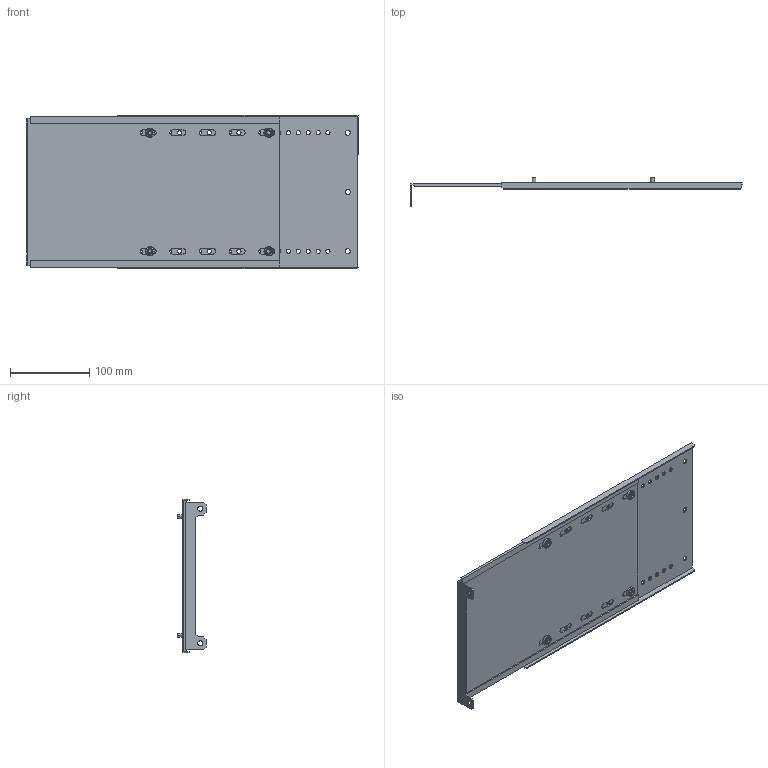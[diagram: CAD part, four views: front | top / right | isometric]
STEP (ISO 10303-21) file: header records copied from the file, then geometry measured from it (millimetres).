
FILE_DESCRIPTION (( 'STEP AP214' ), '1' );
FILE_NAME ('FO-00-SWVB-020-040 Ïåðåãîðîäêà ñåêöèîíèðîâàíèÿ âåðòèêàëüíàÿ äëÿ âåðòèêàëüíîãî øèííîãî îòñåêà 200õ400 ìì â øêàô ãëóáèíîé 800 ìì.STEP', '2025-08-06T13:17:17', ( '' ), ( '' ), 'SwSTEP 2.0', 'SolidWorks 2023', '' );
FILE_SCHEMA (( 'AUTOMOTIVE_DESIGN' ));
Length unit declared in the file: millimetre
Products named in the file (4): Болты М5х150; FO-00-SWVB-020-040 Перегородка секционирования вертикальная для вертикального шинного отсека 200х400 мм в шкаф глубиной 800 мм; Перегородка секционирования; Перегородка секционирования ап
Assembly tree (4 placements, depth 2):
  FO-00-SWVB-020-040 Перегородка секционирования вертикальная для вертикального шинного отсека 200х400 мм в шкаф глубиной 800 мм
    Перегородка секционирования ап
    Перегородка секционирования
    Болты М5х150  x2
Bounding box: 419.75 x 35.7 x 194.5 mm (x, y, z)
Volume: 198140.5 mm3; surface area: 258701.6 mm2
Topology: 6 solids, 6 shells, 298 faces, 810 edges, 532 vertices
Faces by surface type: cylinder 186, plane 88, torus 16, cone 8
Entity records: 8214 total; most frequent: DIRECTION 1482, CARTESIAN_POINT 1363, ORIENTED_EDGE 1344, EDGE_CURVE 672, AXIS2_PLACEMENT_3D 563, VERTEX_POINT 444, LINE 356, VECTOR 356
